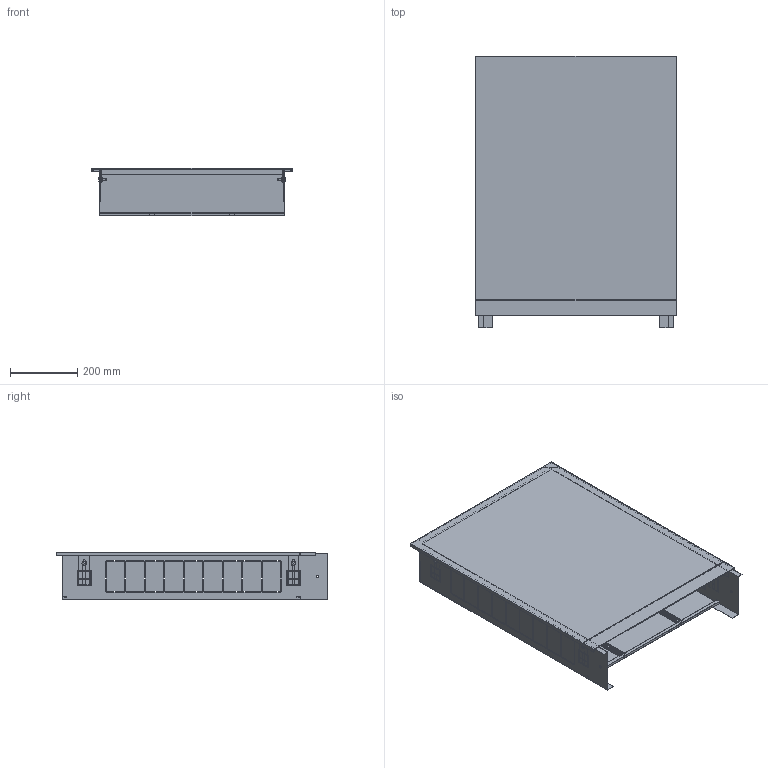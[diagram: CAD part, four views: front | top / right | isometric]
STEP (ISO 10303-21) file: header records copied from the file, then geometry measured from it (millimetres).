
FILE_DESCRIPTION(('STEP AP203'), '1');
FILE_NAME('VTc.540.H.02', '', ('UNSPECIFIED'), ('UNSPECIFIED'), 'C3D Converter', 'C3D Toolkit', '');
FILE_SCHEMA(('CONFIG_CONTROL_DESIGN'));
Length unit declared in the file: millimetre
Products named in the file (1): ВР.301442.012.000 СБ
Bounding box: 595.6 x 808.3 x 141.3 mm (x, y, z)
Volume: 1383314.8 mm3; surface area: 2577509.5 mm2
Topology: 1 solids, 1 shells, 620 faces, 1746 edges, 1130 vertices
Faces by surface type: plane 514, cone 60, cylinder 42, sphere 4
Full cylindrical faces by diameter (mm): 6 x8, 6.4 x4, 7 x2, 14 x4, 18 x4
Entity records: 21598 total; most frequent: CARTESIAN_POINT 5653, ORIENTED_EDGE 3376, DIRECTION 2990, EDGE_CURVE 1688, LINE 1420, VECTOR 1420, VERTEX_POINT 1118, EDGE_LOOP 810
